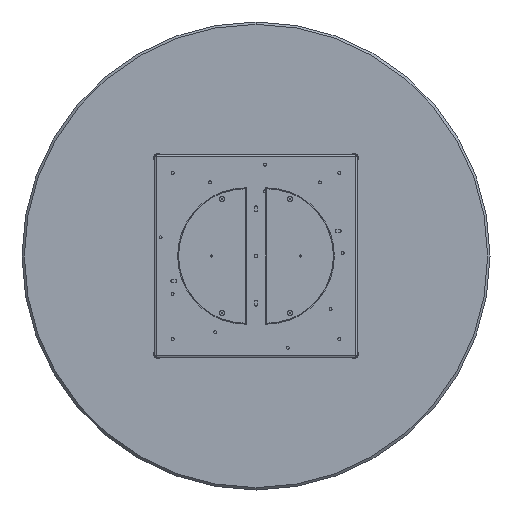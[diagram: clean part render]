
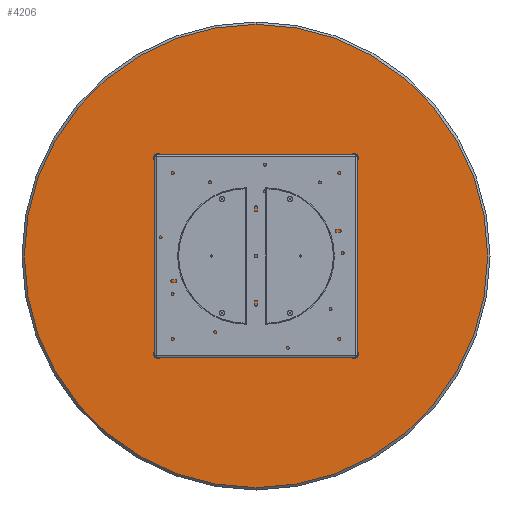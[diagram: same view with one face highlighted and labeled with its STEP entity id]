
A CAD part, front view. The second image highlights one B-rep face of the part: STEP entity #4206.
In plain terms, the highlighted planar face has unit normal (0, -1, 0).
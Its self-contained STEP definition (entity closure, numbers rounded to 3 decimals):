
#612 = DIRECTION ( 'NONE',  ( 0., 0., -1. ) ) ;
#774 = DIRECTION ( 'NONE',  ( 0., -1., 0. ) ) ;
#844 = DIRECTION ( 'NONE',  ( 0., 0., -1. ) ) ;
#1176 = CARTESIAN_POINT ( 'NONE',  ( 0., 0., -782. ) ) ;
#2453 = CIRCLE ( 'NONE', #10943, 782. ) ;
#2810 = FACE_OUTER_BOUND ( 'NONE', #14139, .T. ) ;
#2990 = VERTEX_POINT ( 'NONE', #5687 ) ;
#3083 = AXIS2_PLACEMENT_3D ( 'NONE', #8602, #6465, #5026 ) ;
#4078 = EDGE_CURVE ( 'NONE', #2990, #7867, #8444, .T. ) ;
#4206 = ADVANCED_FACE ( 'NONE', ( #2810 ), #14451, .T. ) ;
#4797 = AXIS2_PLACEMENT_3D ( 'NONE', #9806, #13312, #612 ) ;
#5026 = DIRECTION ( 'NONE',  ( 0., 0., -1. ) ) ;
#5687 = CARTESIAN_POINT ( 'NONE',  ( 0., 0., 782. ) ) ;
#6465 = DIRECTION ( 'NONE',  ( 0., -1., 0. ) ) ;
#7867 = VERTEX_POINT ( 'NONE', #1176 ) ;
#8444 = CIRCLE ( 'NONE', #3083, 782. ) ;
#8602 = CARTESIAN_POINT ( 'NONE',  ( 0., 0., 0. ) ) ;
#9114 = EDGE_CURVE ( 'NONE', #7867, #2990, #2453, .T. ) ;
#9416 = ORIENTED_EDGE ( 'NONE', *, *, #4078, .T. ) ;
#9806 = CARTESIAN_POINT ( 'NONE',  ( 0., 0., 0. ) ) ;
#10943 = AXIS2_PLACEMENT_3D ( 'NONE', #13693, #774, #844 ) ;
#13312 = DIRECTION ( 'NONE',  ( 0., -1., 0. ) ) ;
#13350 = ORIENTED_EDGE ( 'NONE', *, *, #9114, .T. ) ;
#13693 = CARTESIAN_POINT ( 'NONE',  ( 0., 0., 0. ) ) ;
#14139 = EDGE_LOOP ( 'NONE', ( #9416, #13350 ) ) ;
#14451 = PLANE ( 'NONE',  #4797 ) ;
